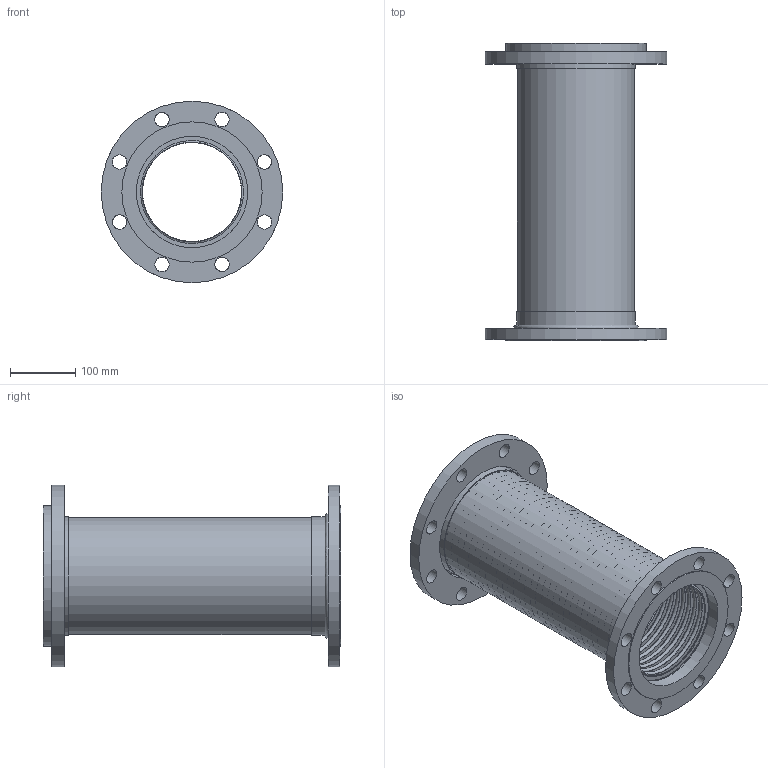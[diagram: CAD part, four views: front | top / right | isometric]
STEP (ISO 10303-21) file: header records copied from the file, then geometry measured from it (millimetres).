
FILE_DESCRIPTION((''),'2;1');
FILE_NAME('C:\2012_Work\Designs\FFLSS\6in_FFLSS_A-30362-3\FFLSS-6x18in.stp','2013-08-26T13:16:14',('KShiels'),(''),'Autodesk Inventor 2012','Autodesk Inventor 2012','');
FILE_SCHEMA(('AUTOMOTIVE_DESIGN { 1 0 10303 214 1 1 1 1 }'));
Length unit declared in the file: inch
Products named in the file (8): FFLSS-6x18in; FFLSS-6x18in_Welds; A-30362-3_6in_FFLSS-BRAID; A-30362-3_6in_FFLSS-BELLOWS; A-30362-3_6in_FFLSS-BRAID-COLLAR; A-30354-2_6in-FIXED-FLANGE; A-30355-1_6in-FLOATING-FLANGE; A-30356-2_6in-WASHER
Assembly tree (8 placements, depth 2):
  FFLSS-6x18in
    FFLSS-6x18in_Welds
    A-30362-3_6in_FFLSS-BRAID
    A-30362-3_6in_FFLSS-BELLOWS
    A-30362-3_6in_FFLSS-BRAID-COLLAR  x2
    A-30354-2_6in-FIXED-FLANGE
    A-30355-1_6in-FLOATING-FLANGE
    A-30356-2_6in-WASHER
Bounding box: 279.4 x 457.2 x 279.4 mm (x, y, z)
Volume: 1820016 mm3; surface area: 2000215.8 mm2
Topology: 9 solids, 9 shells, 333 faces, 551 edges, 375 vertices
Faces by surface type: plane 157, torus 142, cylinder 31, bspline 2, cone 1
Full cylindrical faces by diameter (mm): 22.225 x16, 171.45 x2, 179.07 x1, 180.086 x3, 182.467 x4, 188.867 x1, 215.9 x2, 279.4 x2
Entity records: 7742 total; most frequent: CARTESIAN_POINT 1661, DIRECTION 1368, ORIENTED_EDGE 702, EDGE_LOOP 688, AXIS2_PLACEMENT_3D 684, FACE_BOUND 359, EDGE_CURVE 351, VERTEX_POINT 349
